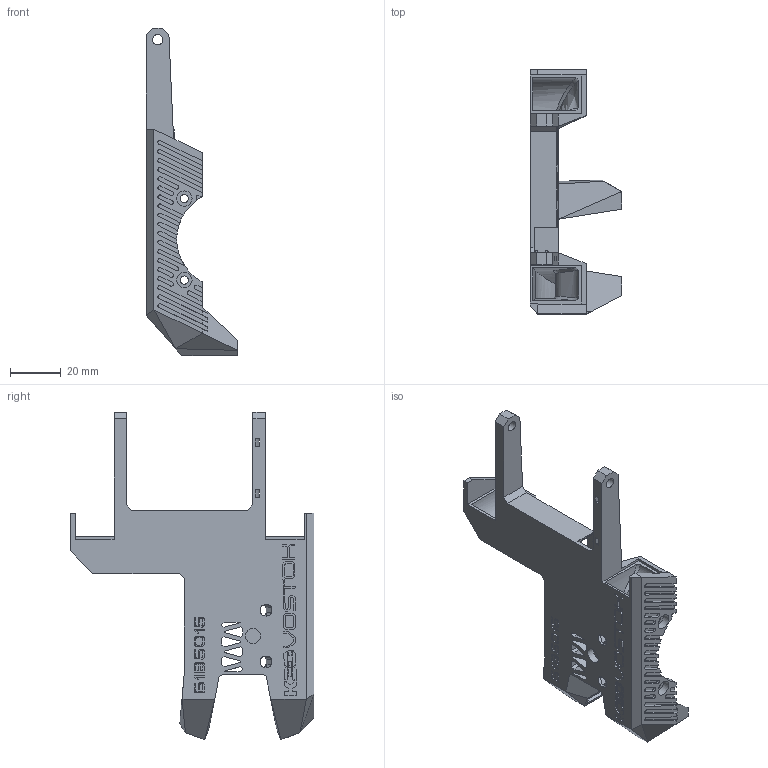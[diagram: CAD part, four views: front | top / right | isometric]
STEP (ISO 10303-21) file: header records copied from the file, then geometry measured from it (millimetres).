
FILE_DESCRIPTION(/* description */ ('CAx-IF Rec.Pracs.---Representation and Presentation of Product Manufacturing Information (PMI)---4.0---2014-10-13','CAx-IF Rec.Pracs.---3D Tessellated Geometry---0.4---2014-09-14','2;1'),/* implementation_level */ '2;1');
FILE_NAME(/* name */ 'B1V5015',/* time_stamp */ '2025-06-14T03:17:49+03:00',/* author */ (''),/* organization */ (''),/* preprocessor_version */ 'ST-DEVELOPER v20',/* originating_system */ 'SIEMENS PLM Software NX2406.6001',/* authorisation */ $);
FILE_SCHEMA (('AP242_MANAGED_MODEL_BASED_3D_ENGINEERING_MIM_LF { 1 0 10303 442 3 1 4 }'));
Length unit declared in the file: millimetre
Products named in the file (1): B1V5015
Bounding box: 36 x 95.85 x 128.62 mm (x, y, z)
Volume: 39594.2 mm3; surface area: 31008.4 mm2
Topology: 1 solids, 1 shells, 594 faces, 1663 edges, 1096 vertices
Faces by surface type: plane 448, cylinder 93, bspline 52, cone 1
Full cylindrical faces by diameter (mm): 1 x2, 3.2 x3, 4 x2, 6 x3
Entity records: 23151 total; most frequent: CARTESIAN_POINT 6917, ORIENTED_EDGE 3294, DIRECTION 2616, EDGE_CURVE 1647, LINE 1118, VECTOR 1118, VERTEX_POINT 1090, AXIS2_PLACEMENT_3D 749
